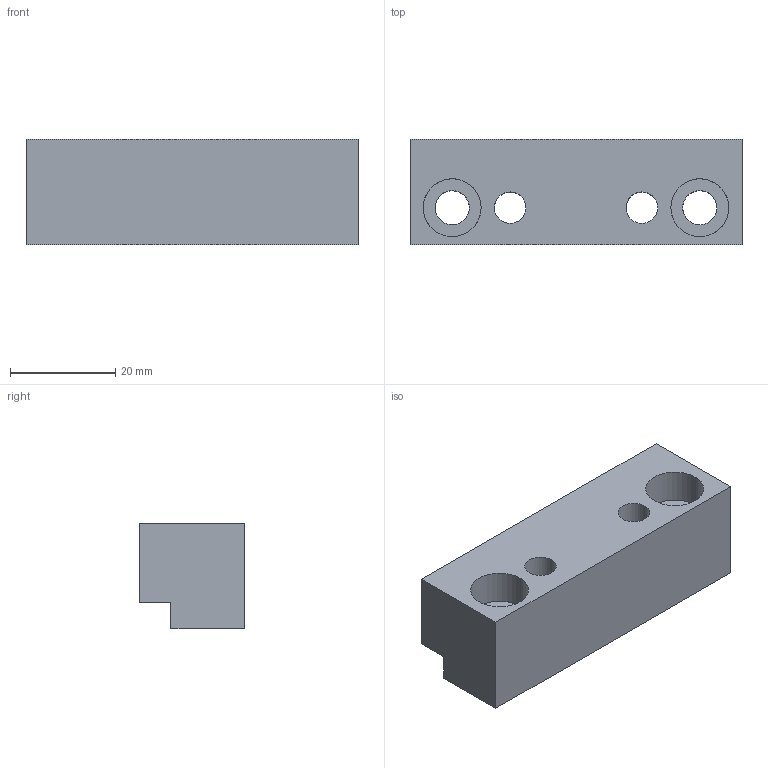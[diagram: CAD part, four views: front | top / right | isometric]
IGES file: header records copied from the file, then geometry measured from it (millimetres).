
Start section: START RECORD GO HERE.
Global section: file name: G40620063.igs; native system: DASSAULT SYSTEMES CATIA V5 R20 - www.3ds.com; preprocessor: CATIA Version 5 Release 20 ; author: r.borello; organization: CFTORINO; date: 20190624.150851; units: millimetre
Bounding box: 63 x 20 x 20 mm (x, y, z)
Surface area: 8476.4 mm2 (no closed solid volume)
Topology: 0 solids, 0 shells, 138 faces, 574 edges, 528 vertices
Faces by surface type: revolution 112, plane 26
